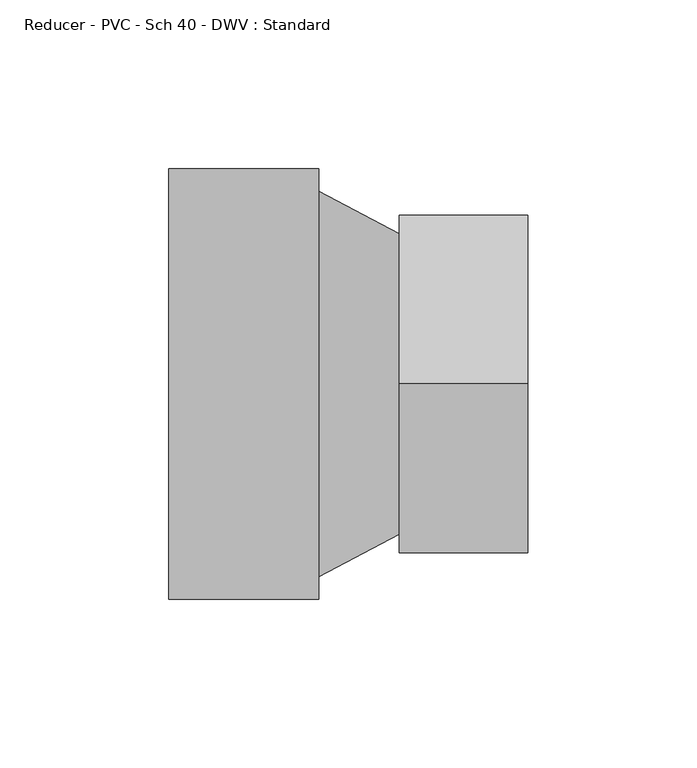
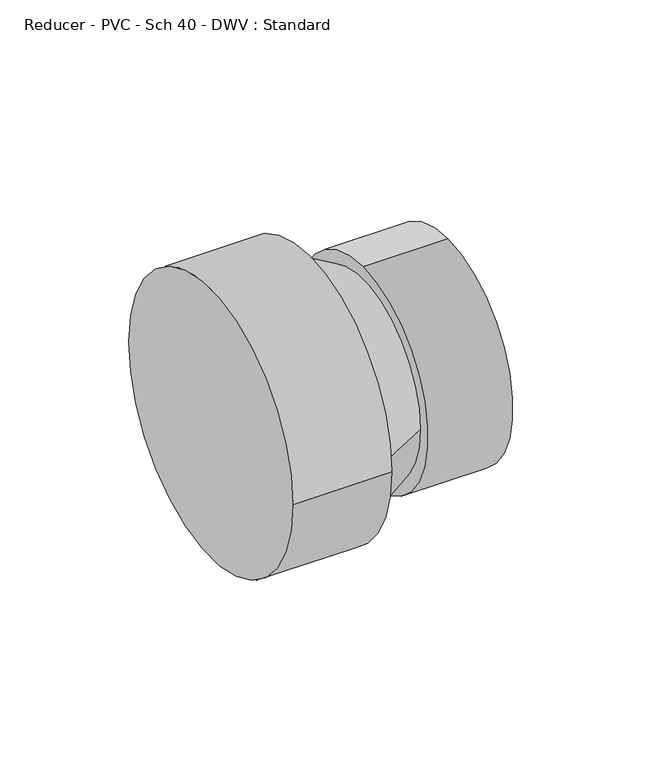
"""IFC4 building model written with IfcOpenShell, lengths in millimetres: pipe fitting geometry, Reducer - PVC - Sch 40 - DWV : Standard."""

from ifc_helpers import new_model, si_unit, frame, origin, place, context, project, spatial, circle_curve, source, transform, mapped, element, save
from ifc_brep_helpers import plane_surface, cylinder_surface, spline_surface, advanced_brep


def reducer_pvc_sch_40_dwv_standard_f0f0b247(model_context):
    return source(origin(), model_context, "Body", "AdvancedBrep", [
        advanced_brep(
        [(0.0, 63.754, 0.0), (0.0, -63.754, 0.0), (44.45, 63.754, 0.0), (44.45, -63.754, 0.0), (44.45, -57.15, 0.0), (44.45, 57.15, 0.0), (68.2752, 44.4506018, 0.0), (68.2752, -44.4493982, 0.0), (68.2752, 0.0006018, 50.2666), (68.2752, 0.0006018, -50.2666), (106.3752, 0.0006018, 50.2666), (106.3752, 0.0006018, -50.2666)],
        [
            (0, 1, circle_curve(frame((0.0, 0.0, 0.0), z_axis=(-1.0, 0.0, 0.0), x_axis=(0.0, -1.0, 0.0)), 63.754)),
            (1, 0, circle_curve(frame((0.0, 0.0, 0.0), z_axis=(-1.0, 0.0, 0.0), x_axis=(0.0, -1.0, 0.0)), 63.754)),
            (2, 3, circle_curve(frame((44.45, 0.0, 0.0), z_axis=(1.0, 0.0, 0.0), x_axis=(0.0, -1.0, 0.0)), 63.754)),
            (3, 2, circle_curve(frame((44.45, 0.0, 0.0), z_axis=(1.0, 0.0, 0.0), x_axis=(0.0, -1.0, 0.0)), 63.754)),
            (4, 5, circle_curve(frame((44.45, 0.0, 0.0), z_axis=(-1.0, 0.0, 0.0), x_axis=(0.0, -1.0, 0.0)), 57.15)),
            (5, 4, circle_curve(frame((44.45, 0.0, 0.0), z_axis=(-1.0, 0.0, 0.0), x_axis=(0.0, -1.0, 0.0)), 57.15)),
            (1, 3),
            (2, 0),
            (5, 6),
            (6, 7, circle_curve(frame((68.2752, 0.0006018, 0.0), z_axis=(-1.0, 0.0, 0.0), x_axis=(0.0, -1.0, 0.0)), 44.45)),
            (7, 4),
            (7, 6, circle_curve(frame((68.2752, 0.0006018, 0.0), z_axis=(-1.0, 0.0, 0.0), x_axis=(0.0, -1.0, 0.0)), 44.45)),
            (8, 9, circle_curve(frame((68.2752, 0.0006018, 0.0), z_axis=(-1.0, 0.0, 0.0), x_axis=(0.0, 0.0, -1.0)), 50.2666)),
            (9, 8, circle_curve(frame((68.2752, 0.0006018, 0.0), z_axis=(-1.0, 0.0, 0.0), x_axis=(0.0, 0.0, -1.0)), 50.2666)),
            (10, 11, circle_curve(frame((106.3752, 0.0006018, 0.0), z_axis=(1.0, 0.0, 0.0), x_axis=(0.0, 0.0, -1.0)), 50.2666)),
            (11, 10, circle_curve(frame((106.3752, 0.0006018, 0.0), z_axis=(1.0, 0.0, 0.0), x_axis=(0.0, 0.0, -1.0)), 50.2666)),
            (9, 11),
            (10, 8),
        ],
        [
            plane_surface(frame((0.0, 0.0, 0.0), z_axis=(-1.0, 0.0, 0.0), x_axis=(0.0, 0.0, 1.0))),
            plane_surface(frame((44.45, 0.0, 0.0), z_axis=(1.0, 0.0, 0.0), x_axis=(0.0, 0.0, 1.0))),
            cylinder_surface(frame((0.0, 0.0, 0.0), z_axis=(-1.0, 0.0, 0.0), x_axis=(0.0, -1.0, 0.0)), 63.754),
            spline_surface(1, 2, [[(44.45, 57.15, 0.0), (44.45, 57.15, -57.15), (44.45, 0.0, -57.15), (44.45, -57.15, -57.15), (44.45, -57.15, 0.0)], [(68.2752, 44.4506018, 0.0), (68.2752, 44.4506018, -44.45), (68.2752, 0.0006018, -44.45), (68.2752, -44.449398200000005, -44.45), (68.2752, -44.4493982, 0.0)]], [2, 2], [3, 2, 3], [0.0, 1.0], [0.0, 1.0, 2.0], weights=[[1.0, 0.7071067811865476, 1.0, 0.7071067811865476, 1.0], [1.0, 0.7071067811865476, 1.0, 0.7071067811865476, 1.0]]),
            spline_surface(1, 2, [[(44.45, -57.15, 0.0), (44.45, -57.15, 57.15), (44.45, 0.0, 57.15), (44.45, 57.15, 57.15), (44.45, 57.15, 0.0)], [(68.2752, -44.4493982, 0.0), (68.2752, -44.4493982, 44.449999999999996), (68.2752, 0.0006018, 44.449999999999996), (68.2752, 44.450601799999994, 44.449999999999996), (68.2752, 44.4506018, 0.0)]], [2, 2], [3, 2, 3], [0.0, 1.0], [0.0, 1.0, 2.0], weights=[[1.0, 0.7071067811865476, 1.0, 0.7071067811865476, 1.0], [1.0, 0.7071067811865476, 1.0, 0.7071067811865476, 1.0]]),
            plane_surface(frame((68.2752, 0.0006018, 0.0), z_axis=(-1.0, 0.0, 0.0), x_axis=(0.0, -1.0, 0.0))),
            plane_surface(frame((106.3752, 0.0006018, 0.0), z_axis=(1.0, 0.0, 0.0), x_axis=(0.0, -1.0, 0.0))),
            cylinder_surface(frame((68.2752, 0.0006018, 0.0), z_axis=(-1.0, 0.0, 0.0), x_axis=(0.0, 0.0, -1.0)), 50.2666),
        ],
        [
            (0, [[1, 2]]),
            (1, [[3, 4], [5, 6]]),
            (2, [[7, -3, 8, -2]]),
            (2, [[-8, -4, -7, -1]]),
            (3, [[-6, 9, 10, 11]]),
            (4, [[12, -9, -5, -11]]),
            (5, [[13, 14], [-12, -10]]),
            (6, [[15, 16]]),
            (7, [[17, -15, 18, -14]]),
            (7, [[-18, -16, -17, -13]]),
        ],
    ),
    ])


if __name__ == "__main__":
    model = new_model("IFC4")
    model_context = context("Model", 3, world=origin())
    ifc_project = project(units=[si_unit("LENGTHUNIT", "METRE", prefix="MILLI")], contexts=[model_context])
    site = spatial("IfcSite", under=ifc_project)
    building = spatial("IfcBuilding", under=site)
    placement = place(None, origin())
    reducer_pvc_sch_40_dwv_standard_shape = reducer_pvc_sch_40_dwv_standard_f0f0b247(model_context)
    element("IfcPipeFitting", 1, ObjectType="Reducer - PVC - Sch 40 - DWV : Standard", at=placement, inside=building, context=model_context, shape_type="MappedRepresentation", body=[
        mapped(reducer_pvc_sch_40_dwv_standard_shape, transform((0.0, 0.0, 0.0), x_axis=(1.0, 0.0, 0.0), y_axis=(0.0, 1.0, 0.0), z_axis=(0.0, 0.0, 1.0))),
    ])
    save(model, "model.ifc")
